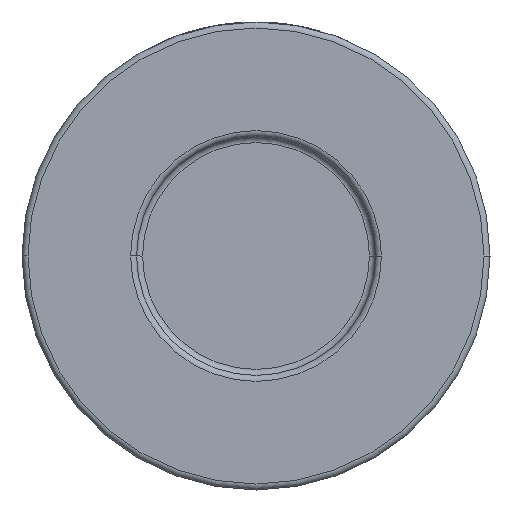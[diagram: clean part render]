
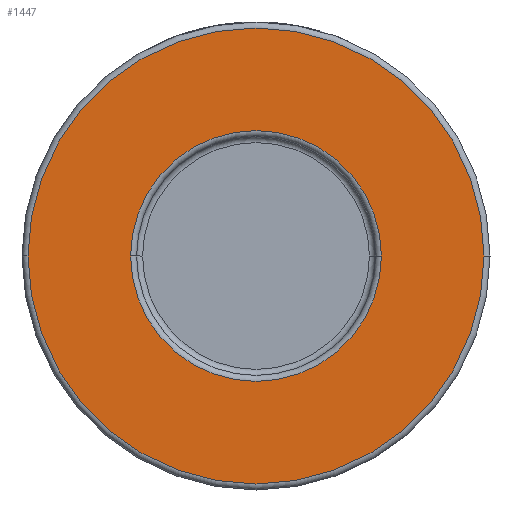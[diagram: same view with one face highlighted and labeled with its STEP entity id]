
A CAD part, front view. The second image highlights one B-rep face of the part: STEP entity #1447.
In plain terms, the highlighted planar face has unit normal (0, -1, 0).
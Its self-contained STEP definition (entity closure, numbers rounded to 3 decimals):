
#25 = CARTESIAN_POINT ( 'NONE',  ( 39., -19., 0. ) ) ;
#152 = CARTESIAN_POINT ( 'NONE',  ( 0., -19., 0. ) ) ;
#355 = EDGE_CURVE ( 'NONE', #2099, #1437, #3256, .T. ) ;
#535 = VERTEX_POINT ( 'NONE', #3874 ) ;
#556 = CARTESIAN_POINT ( 'NONE',  ( -38., -19., 0. ) ) ;
#614 = DIRECTION ( 'NONE',  ( 0., -1., 0. ) ) ;
#712 = CARTESIAN_POINT ( 'NONE',  ( 0., -19., 0. ) ) ;
#838 = ORIENTED_EDGE ( 'NONE', *, *, #3665, .T. ) ;
#875 = EDGE_LOOP ( 'NONE', ( #2244, #4040 ) ) ;
#1047 = CIRCLE ( 'NONE', #3262, 38. ) ;
#1183 = EDGE_LOOP ( 'NONE', ( #3199, #838 ) ) ;
#1261 = CIRCLE ( 'NONE', #3110, 20.9 ) ;
#1437 = VERTEX_POINT ( 'NONE', #3708 ) ;
#1447 = ADVANCED_FACE ( 'NONE', ( #2642, #4046 ), #2302, .T. ) ;
#1581 = EDGE_CURVE ( 'NONE', #535, #4445, #3625, .T. ) ;
#1627 = AXIS2_PLACEMENT_3D ( 'NONE', #3772, #614, #3428 ) ;
#1814 = DIRECTION ( 'NONE',  ( 0., -1., 0. ) ) ;
#2099 = VERTEX_POINT ( 'NONE', #2534 ) ;
#2146 = DIRECTION ( 'NONE',  ( 0., 1., 0. ) ) ;
#2169 = DIRECTION ( 'NONE',  ( 1., 0., 0. ) ) ;
#2244 = ORIENTED_EDGE ( 'NONE', *, *, #1581, .T. ) ;
#2302 = PLANE ( 'NONE',  #2590 ) ;
#2516 = DIRECTION ( 'NONE',  ( 0., -1., 0. ) ) ;
#2534 = CARTESIAN_POINT ( 'NONE',  ( 20.9, -19., 0. ) ) ;
#2590 = AXIS2_PLACEMENT_3D ( 'NONE', #25, #1814, #2738 ) ;
#2604 = CARTESIAN_POINT ( 'NONE',  ( 0., -19., 0. ) ) ;
#2642 = FACE_BOUND ( 'NONE', #1183, .T. ) ;
#2738 = DIRECTION ( 'NONE',  ( 1., 0., 0. ) ) ;
#3110 = AXIS2_PLACEMENT_3D ( 'NONE', #2604, #2146, #2169 ) ;
#3199 = ORIENTED_EDGE ( 'NONE', *, *, #355, .T. ) ;
#3256 = CIRCLE ( 'NONE', #4049, 20.9 ) ;
#3262 = AXIS2_PLACEMENT_3D ( 'NONE', #152, #2516, #4012 ) ;
#3428 = DIRECTION ( 'NONE',  ( 1., 0., 0. ) ) ;
#3555 = DIRECTION ( 'NONE',  ( 0., 1., 0. ) ) ;
#3582 = EDGE_CURVE ( 'NONE', #4445, #535, #1047, .T. ) ;
#3625 = CIRCLE ( 'NONE', #1627, 38. ) ;
#3665 = EDGE_CURVE ( 'NONE', #1437, #2099, #1261, .T. ) ;
#3708 = CARTESIAN_POINT ( 'NONE',  ( -20.9, -19., 0. ) ) ;
#3772 = CARTESIAN_POINT ( 'NONE',  ( 0., -19., 0. ) ) ;
#3874 = CARTESIAN_POINT ( 'NONE',  ( 38., -19., 0. ) ) ;
#4012 = DIRECTION ( 'NONE',  ( 1., 0., 0. ) ) ;
#4040 = ORIENTED_EDGE ( 'NONE', *, *, #3582, .T. ) ;
#4046 = FACE_OUTER_BOUND ( 'NONE', #875, .T. ) ;
#4049 = AXIS2_PLACEMENT_3D ( 'NONE', #712, #3555, #4307 ) ;
#4307 = DIRECTION ( 'NONE',  ( 1., 0., 0. ) ) ;
#4445 = VERTEX_POINT ( 'NONE', #556 ) ;
